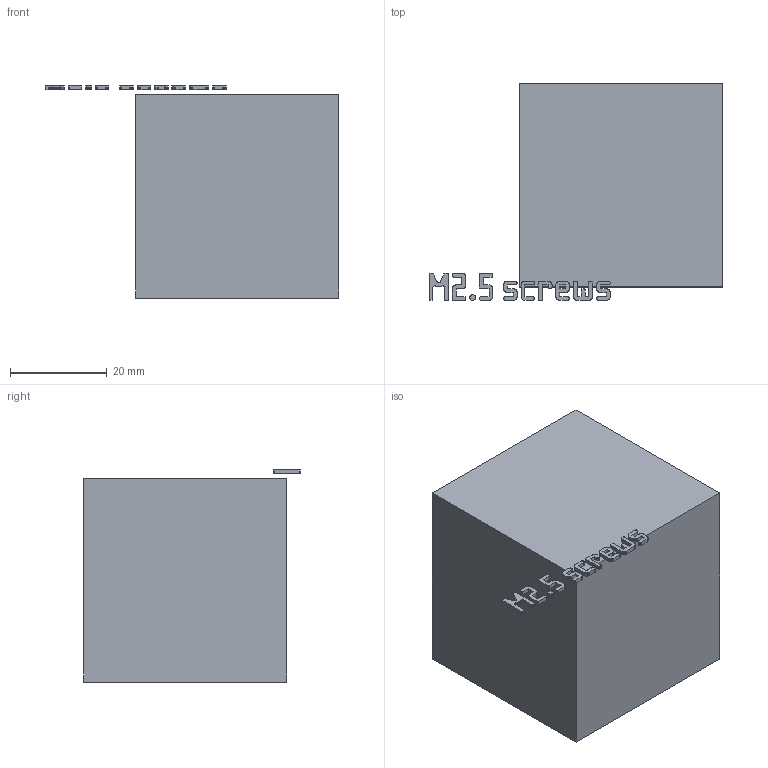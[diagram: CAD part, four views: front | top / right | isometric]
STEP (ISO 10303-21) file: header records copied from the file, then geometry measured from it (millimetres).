
FILE_DESCRIPTION(('Open CASCADE Model'),'2;1');
FILE_NAME('Open CASCADE Shape Model','2026-11-03T16:03:55',('Author'),( 'Open CASCADE'),'Open CASCADE STEP processor 8.0','build123d', 'Unknown');
FILE_SCHEMA(('AUTOMOTIVE_DESIGN { 1 0 10303 214 1 1 1 1 }'));
Products named in the file (1): COMPOUND
Bounding box: 60.72 x 44.8 x 43.8 mm (x, y, z)
Volume: 19275.6 mm3; surface area: 19550 mm2
Topology: 11 solids, 12 shells, 994 faces, 2910 edges, 1940 vertices
Faces by surface type: plane 994
Entity records: 70068 total; most frequent: CARTESIAN_POINT 11673, DIRECTION 10712, LINE 8722, VECTOR 8722, ORIENTED_EDGE 5820, PCURVE 5820, DEFINITIONAL_REPRESENTATION 5820, EDGE_CURVE 2910
